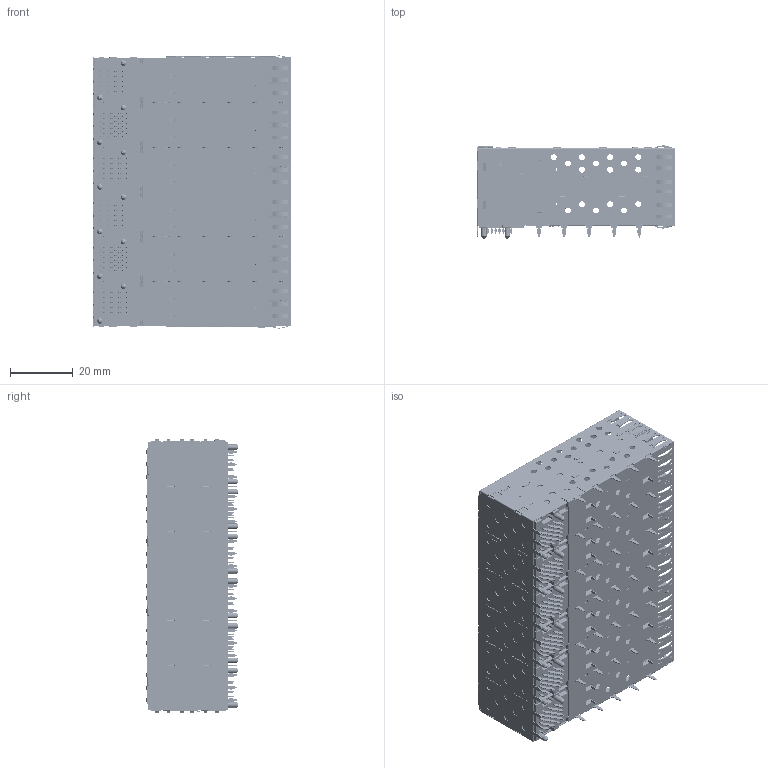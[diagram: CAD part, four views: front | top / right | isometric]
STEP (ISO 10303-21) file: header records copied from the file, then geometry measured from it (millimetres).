
FILE_DESCRIPTION((''),'2;1');
FILE_NAME('3D-ESFP-006-01-C-SFP2X6-STAND-4','2019-10-07T',('Administrator'),(''),'PRO/ENGINEER BY PARAMETRIC TECHNOLOGY CORPORATION, 2010280','PRO/ENGINEER BY PARAMETRIC TECHNOLOGY CORPORATION, 2010280','');
FILE_SCHEMA(('CONFIG_CONTROL_DESIGN'));
Products named in the file (1): 3D-ESFP-006-01-C-SFP2X6-STAND-4
Bounding box: 63.4 x 29.6 x 87.15 mm (x, y, z)
Volume: 65895.1 mm3; surface area: 66556.2 mm2
Topology: 1 solids, 65 shells, 14622 faces, 42235 edges, 27967 vertices
Faces by surface type: plane 8234, cylinder 6356, cone 24, bspline 8
Entity records: 486963 total; most frequent: CARTESIAN_POINT 88282, ORIENTED_EDGE 84470, DIRECTION 83184, EDGE_CURVE 42235, VECTOR 29000, LINE 29000, VERTEX_POINT 27967, AXIS2_PLACEMENT_3D 27092
